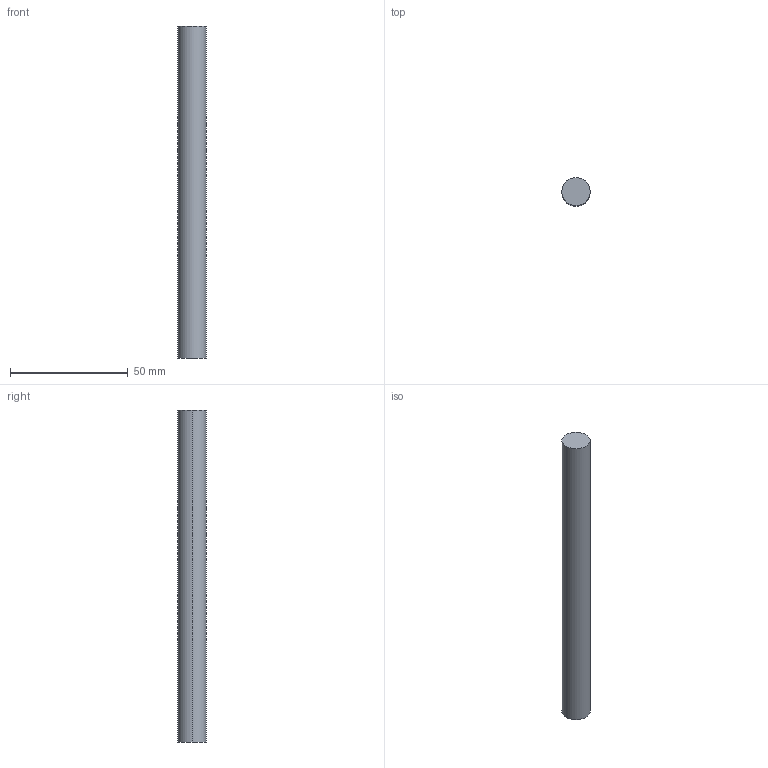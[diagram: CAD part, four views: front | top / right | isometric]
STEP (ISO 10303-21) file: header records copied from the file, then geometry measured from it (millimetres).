
FILE_DESCRIPTION (( 'STEP AP214' ), '1' );
FILE_NAME ('Magic Reling quer - S18_S19 - 250.step', '2010-09-07T14:56:10', ( 'grass' ), ( '' ), 'SwSTEP 2.0', 'SolidWorks 2010', '' );
FILE_SCHEMA (( 'AUTOMOTIVE_DESIGN' ));
Length unit declared in the file: millimetre
Products named in the file (1): Magic Reling quer - S18_S19 - 250
Bounding box: 12 x 12 x 141 mm (x, y, z)
Volume: 15946.7 mm3; surface area: 5541.8 mm2
Topology: 1 solids, 1 shells, 4 faces, 6 edges, 4 vertices
Faces by surface type: cylinder 2, plane 2
Entity records: 128 total; most frequent: DIRECTION 20, CARTESIAN_POINT 15, ORIENTED_EDGE 12, AXIS2_PLACEMENT_3D 9, EDGE_CURVE 6, VERTEX_POINT 4, ADVANCED_FACE 4, EDGE_LOOP 4
